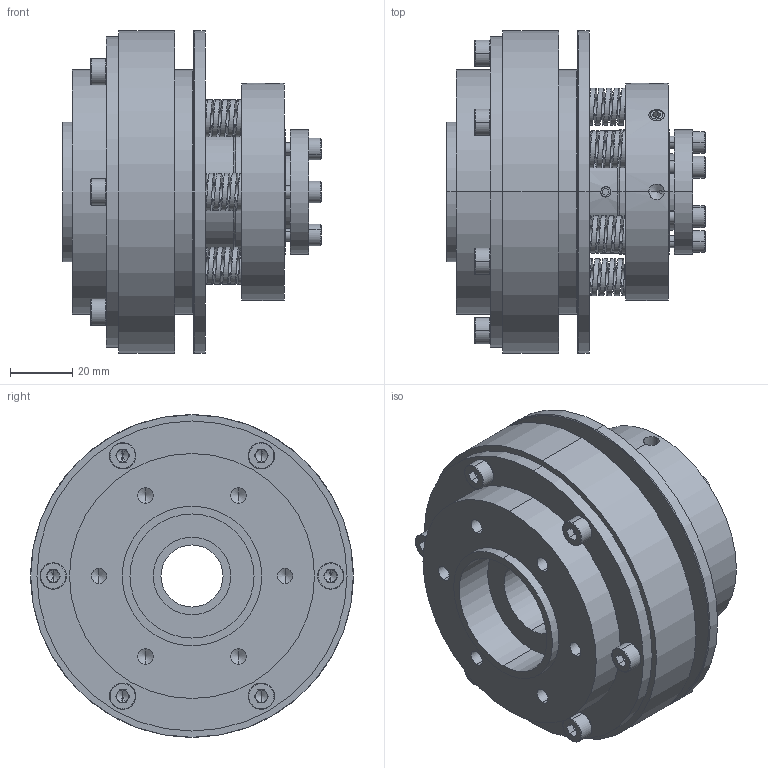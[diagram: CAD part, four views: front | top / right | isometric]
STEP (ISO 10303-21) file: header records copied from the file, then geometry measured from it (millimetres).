
FILE_DESCRIPTION (( 'STEP AP203' ), '1' );
FILE_NAME ('STL55F-P20.STEP', '2019-06-03T09:14:01', ( '' ), ( '' ), 'SwSTEP 2.0', 'SolidWorks 2015', '' );
FILE_SCHEMA (( 'CONFIG_CONTROL_DESIGN' ));
Length unit declared in the file: millimetre
Products named in the file (1): STL55F-P20
Bounding box: 83.25 x 104 x 104 mm (x, y, z)
Volume: 335794.7 mm3; surface area: 76059.5 mm2
Topology: 7 solids, 15 shells, 581 faces, 1381 edges, 850 vertices
Faces by surface type: plane 237, cylinder 218, bspline 66, cone 60
Entity records: 30026 total; most frequent: CARTESIAN_POINT 16725, DIRECTION 2797, ORIENTED_EDGE 2698, EDGE_CURVE 1349, AXIS2_PLACEMENT_3D 1062, VERTEX_POINT 850, EDGE_LOOP 683, LINE 673
